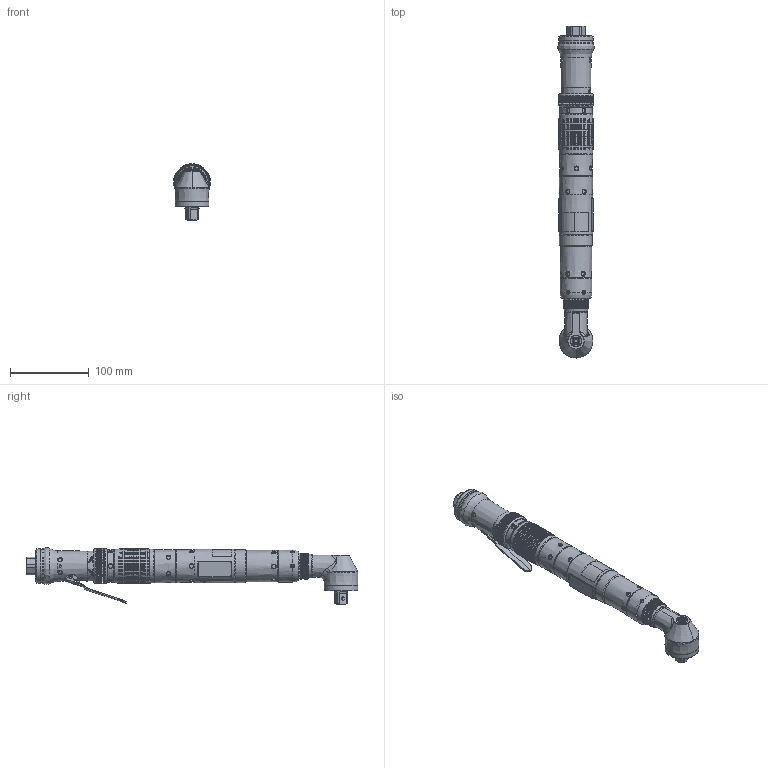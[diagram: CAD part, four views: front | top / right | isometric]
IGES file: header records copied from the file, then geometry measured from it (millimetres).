
Global section: file name: T:\siji\siji2\QA6 angle stall\45498342\45498342.igs; native system: Unigraphics Version X V2.0; preprocessor: Unigraphics NX IGES V2.0; date: 20070515.120039; units: inch
Bounding box: 46.21 x 421.6 x 72.21 mm (x, y, z)
Surface area: 84578.1 mm2 (no closed solid volume)
Topology: 0 solids, 0 shells, 1175 faces, 13390 edges, 13190 vertices
Faces by surface type: revolution 618, extrusion 527, bspline 28, offset 2
